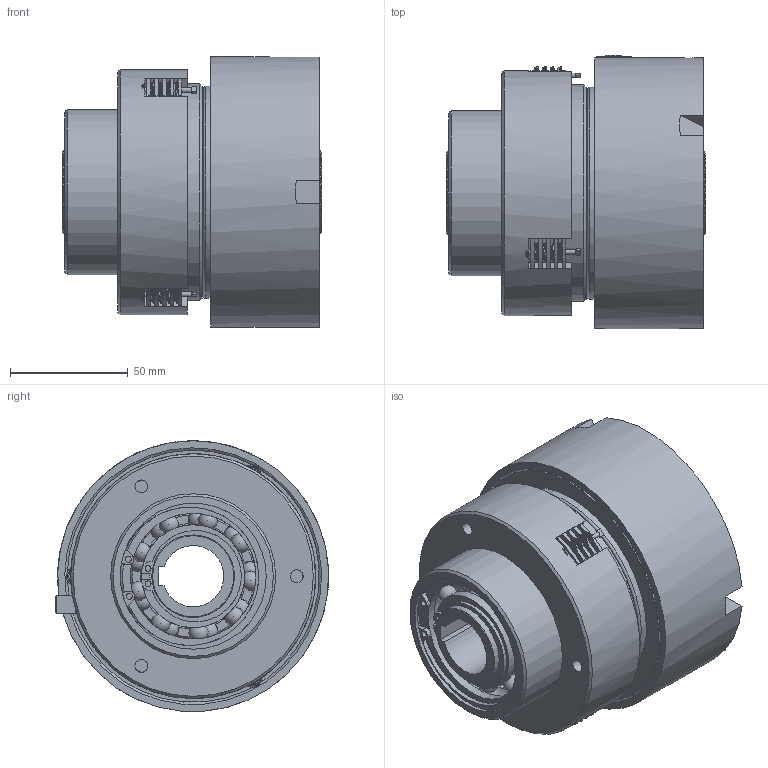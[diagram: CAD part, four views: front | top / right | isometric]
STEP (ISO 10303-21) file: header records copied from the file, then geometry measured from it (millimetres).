
FILE_DESCRIPTION(/* description */ (''),/* implementation_level */ '2;1');
FILE_NAME(/* name */ 'X:\INVENTOR\DISEGNI\03_Friz_Oleod_Pneum_Cil_Stat\03_06 LPR\03_06_003_01 LPR03\03_06_003_01 LPR03@STEP.stp',/* time_stamp */ '2017-06-22T13:40:02+02:00',/* author */ ('stefano'),/* organization */ (''),/* preprocessor_version */ 'ST-DEVELOPER v16.1',/* originating_system */ 'Autodesk Inventor 2016',/* authorisation */ '');
FILE_SCHEMA (('CONFIG_CONTROL_DESIGN'));
Length unit declared in the file: millimetre
Products named in the file (1): 03_06_003_01 LPR03_Substitute_1
Bounding box: 110 x 116 x 114.83 mm (x, y, z)
Volume: 623156 mm3; surface area: 254255.3 mm2
Topology: 25 solids, 25 shells, 636 faces, 1918 edges, 1257 vertices
Faces by surface type: plane 283, cylinder 184, torus 89, sphere 38, cone 30, bspline 12
Full cylindrical faces by diameter (mm): 2 x3, 2.5 x8, 2.75 x15, 3 x12, 5 x1, 5.459 x3, 7 x1, 8.566 x1, 33 x3, 35 x6, 43.64 x6, 44 x1, 52 x1, 53.36 x6, 55 x3, 56 x5, 62 x4, 65 x2, 66 x1, 66.2 x2, 70 x1, 75 x1, 78 x1, 78.8 x2, 80 x1, 90 x5, 92 x1, 100 x1, 104 x1, 107 x1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
Entity records: 27907 total; most frequent: CARTESIAN_POINT 11401, ORIENTED_EDGE 3238, DIRECTION 3229, EDGE_CURVE 1617, AXIS2_PLACEMENT_3D 1342, VERTEX_POINT 1124, EDGE_LOOP 919, CIRCLE 711
